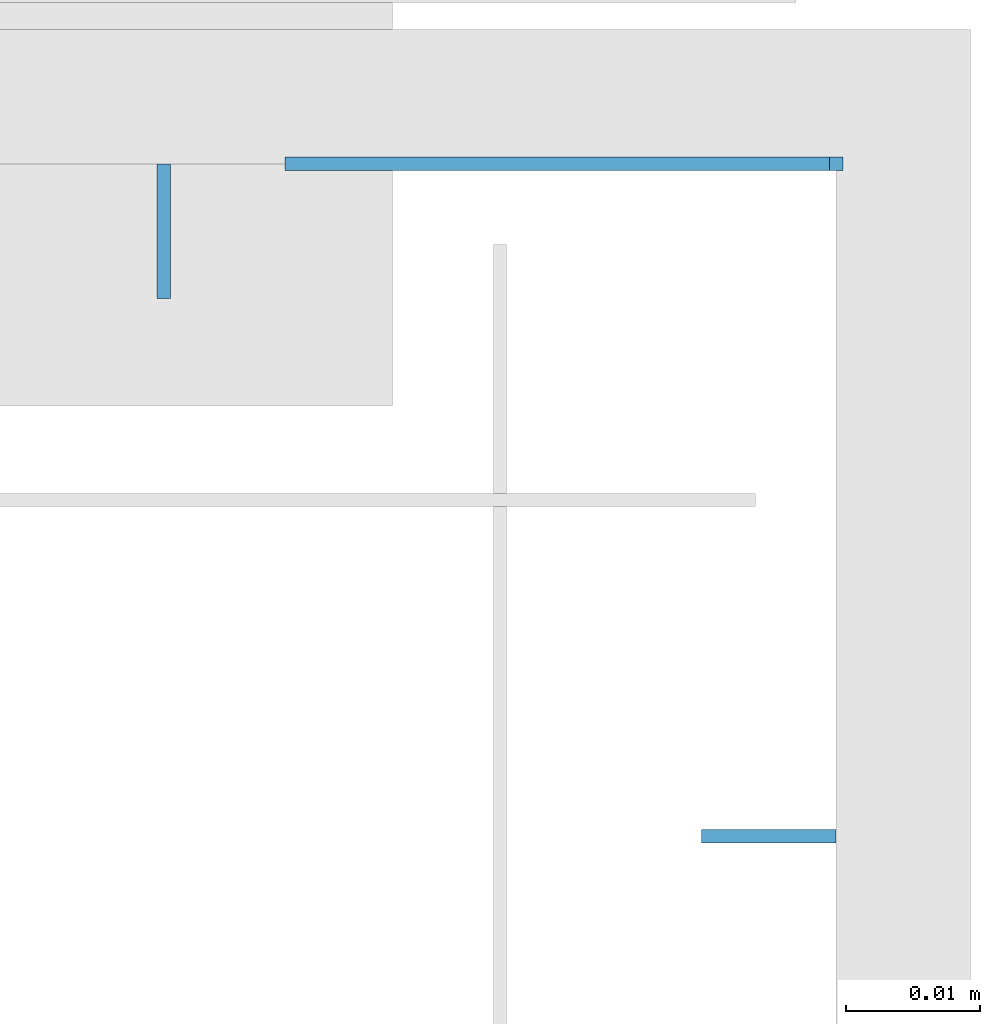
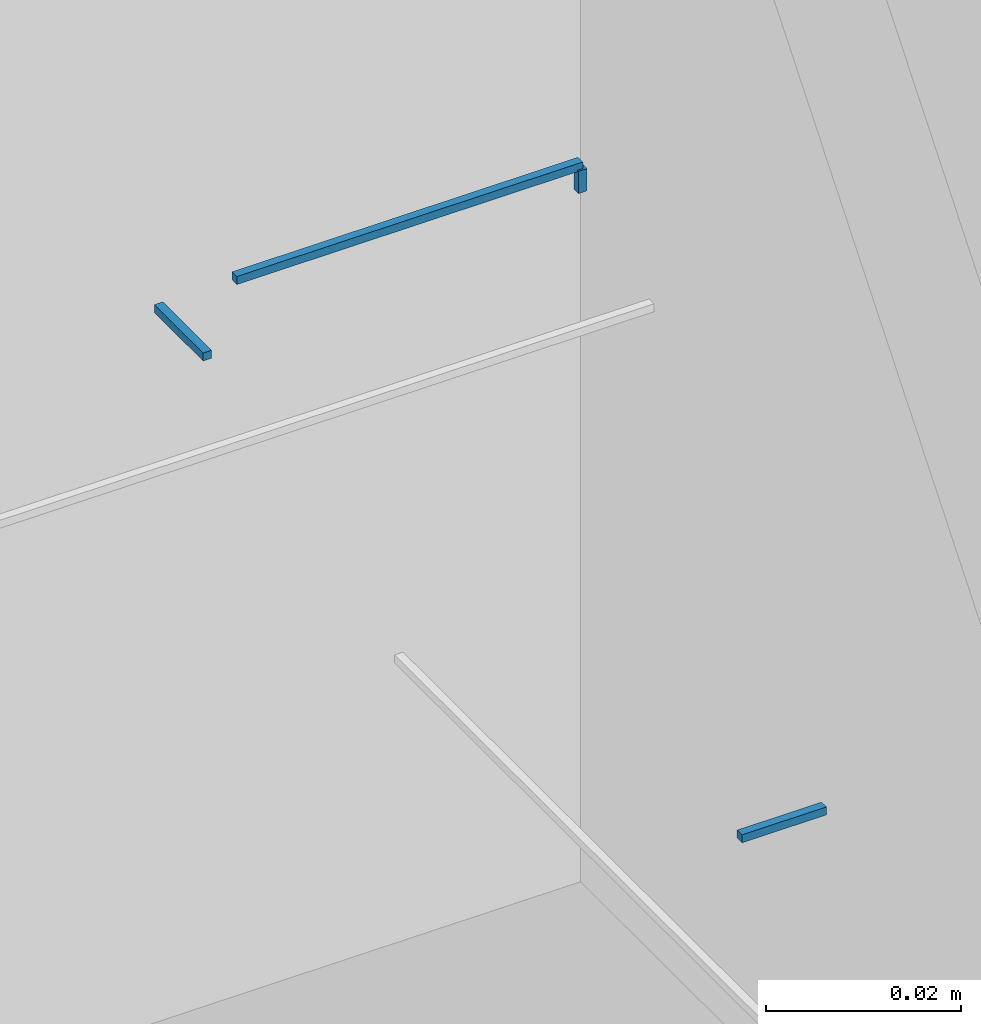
# One storey, part 110 of 186: 4 beams.
"""IFC4X3_ADD2 building model written with IfcOpenShell, lengths in millimetres."""

from ifc_helpers import new_model, si_unit, direction, frame, frame_2d, origin_with_axes, place, context, subcontext, project, spatial, rectangle, extrude, material, element, save


model = new_model("IFC4X3_ADD2")

# Units and contexts
model_context = context("Model", 3, precision=1e-05, world=origin_with_axes(), true_north=direction((0.0, 1.0)))
body_context = subcontext(model_context, "Body", "Model", "MODEL_VIEW")
ifc_project = project(units=[si_unit("LENGTHUNIT", "METRE", prefix="MILLI"), si_unit("AREAUNIT", "SQUARE_METRE"), si_unit("VOLUMEUNIT", "CUBIC_METRE"), si_unit("PLANEANGLEUNIT", "RADIAN"), si_unit("TIMEUNIT", "SECOND"), si_unit("MASSUNIT", "GRAM")], contexts=[model_context])

# Site, building, storey
site_placement = place(None, origin_with_axes())
site = spatial("IfcSite", under=ifc_project, at=site_placement, Name="Site", CompositionType="ELEMENT")
building_placement = place(site_placement, origin_with_axes())
building = spatial("IfcBuilding", under=site, at=building_placement, Name="IFC Building Story")
storey_placement = place(building_placement, frame((0.0, 0.0, 4370.0), z_axis=(0.0, 0.0, 1.0), x_axis=(1.0, 0.0, 0.0)))
storey = spatial("IfcBuildingStorey", under=building, at=storey_placement, Name="ETAGE 10 (1)", Elevation=4370.0)

# Beams
ifc_material = material(Name="STEEL/Accessory_invisible")
beam_1_placement = place(storey_placement, frame((48494.6886362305, 17987.9996109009, 3758.09747859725), z_axis=(-1.0, 0.0, 0.0), x_axis=(0.0, 0.0, 1.0)))
element("IfcBeam", 1, at=beam_1_placement, inside=storey, material=ifc_material, Name="ZW1", ObjectType="1*1 8", context=body_context, shape_type="SweptSolid", body=[
    extrude(rectangle(XDim=2.79999999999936, YDim=1.0, at=frame_2d((0.0, 5.95523630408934e-12), x_axis=(1.0, 0.0))), origin_with_axes(), (0.0, 0.0, 1.0), 1.0),
])
beam_2_placement = place(storey_placement, frame((48443.6886362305, 17982.9996109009, 3759.5), z_axis=(1.0, 0.0, 0.0), x_axis=(0.0, 0.0, 1.0)))
element("IfcBeam", 2, at=beam_2_placement, inside=storey, material=ifc_material, Name="MP21", ObjectType="1*1 9", context=body_context, shape_type="SweptSolid", body=[
    extrude(rectangle(XDim=0.9999999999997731, YDim=10.0, at=frame_2d((0.0, 5.95523630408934e-12), x_axis=(1.0, 0.0))), origin_with_axes(), (0.0, 0.0, 1.0), 1.0),
])
beam_3_placement = place(storey_placement, frame((48494.18863623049, 17987.9996109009, 3760.0), z_axis=(-1.0, 0.0, 0.0), x_axis=(0.0, 1.0, 0.0)))
element("IfcBeam", 3, at=beam_3_placement, inside=storey, material=ifc_material, Name="MP12", ObjectType="1*1 3", context=body_context, shape_type="SweptSolid", body=[
    extrude(rectangle(XDim=0.9999999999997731, YDim=0.9999999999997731, at=frame_2d((0.0, 5.95523630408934e-12), x_axis=(1.0, 0.0))), origin_with_axes(), (0.0, 0.0, 1.0), 41.0),
])
beam_4_placement = place(storey_placement, frame((48494.1886362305, 17937.9996109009, 3709.5), z_axis=(-1.0, 0.0, 0.0), x_axis=(0.0, -1.0, 0.0)))
element("IfcBeam", 4, at=beam_4_placement, inside=storey, material=ifc_material, Name="MP21", ObjectType="1*1 3", context=body_context, shape_type="SweptSolid", body=[
    extrude(rectangle(XDim=0.9999999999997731, YDim=0.9999999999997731, at=frame_2d((0.0, 5.95523630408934e-12), x_axis=(1.0, 0.0))), origin_with_axes(), (0.0, 0.0, 1.0), 10.0),
])

save(model, "model.ifc")
